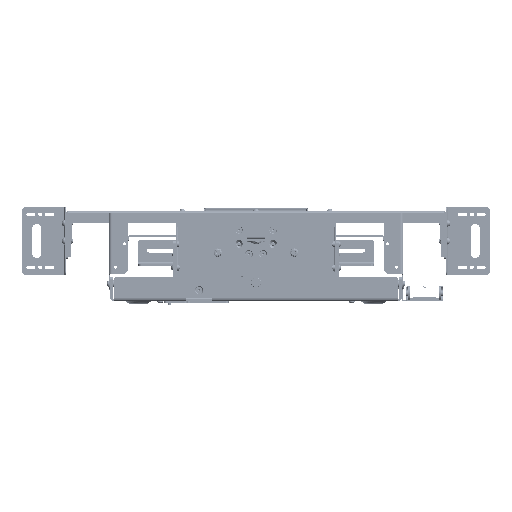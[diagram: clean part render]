
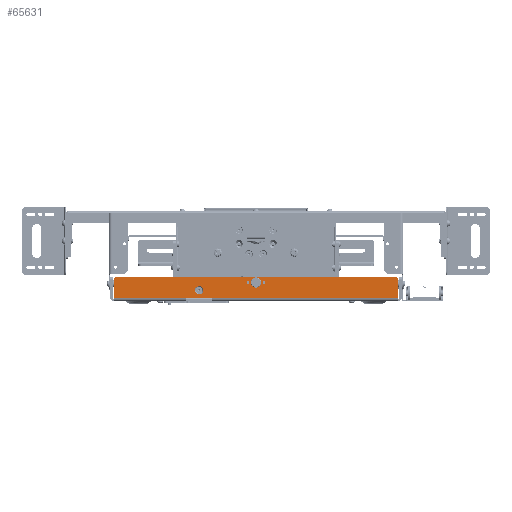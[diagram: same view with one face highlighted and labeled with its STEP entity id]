
A CAD part, front view. The second image highlights one B-rep face of the part: STEP entity #65631.
In plain terms, the highlighted planar face has unit normal (0, -1, 0).
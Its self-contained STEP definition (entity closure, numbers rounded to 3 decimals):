
#600 = DIRECTION ( 'NONE',  ( 0., -1., 0. ) ) ;
#741 = EDGE_CURVE ( 'NONE', #95664, #13946, #26627, .T. ) ;
#1079 = DIRECTION ( 'NONE',  ( 0., 0., 1. ) ) ;
#1618 = CARTESIAN_POINT ( 'NONE',  ( -119.1, -6.2, 6.2 ) ) ;
#4582 = CARTESIAN_POINT ( 'NONE',  ( -96.6, -6.2, 18.7 ) ) ;
#5121 = DIRECTION ( 'NONE',  ( 0., 1., 0. ) ) ;
#5623 = FACE_BOUND ( 'NONE', #27800, .T. ) ;
#7904 = ORIENTED_EDGE ( 'NONE', *, *, #34254, .T. ) ;
#8364 = CARTESIAN_POINT ( 'NONE',  ( 241.3, -6.2, 37. ) ) ;
#8515 = DIRECTION ( 'NONE',  ( 0., 1., 0. ) ) ;
#10911 = VERTEX_POINT ( 'NONE', #78566 ) ;
#11022 = DIRECTION ( 'NONE',  ( 0., 0., -1. ) ) ;
#12051 = FACE_OUTER_BOUND ( 'NONE', #79522, .T. ) ;
#13544 = ORIENTED_EDGE ( 'NONE', *, *, #32694, .T. ) ;
#13946 = VERTEX_POINT ( 'NONE', #41589 ) ;
#15529 = CIRCLE ( 'NONE', #67646, 2.325 ) ;
#16868 = VERTEX_POINT ( 'NONE', #25232 ) ;
#16884 = DIRECTION ( 'NONE',  ( -1., 0., 0. ) ) ;
#17291 = EDGE_CURVE ( 'NONE', #10911, #22701, #46538, .T. ) ;
#17673 = VECTOR ( 'NONE', #82520, 1000. ) ;
#17725 = VERTEX_POINT ( 'NONE', #8364 ) ;
#21248 = DIRECTION ( 'NONE',  ( 0., 0., 1. ) ) ;
#22701 = VERTEX_POINT ( 'NONE', #1618 ) ;
#23065 = AXIS2_PLACEMENT_3D ( 'NONE', #89012, #87546, #21248 ) ;
#23842 = CIRCLE ( 'NONE', #47592, 8.6 ) ;
#23881 = ORIENTED_EDGE ( 'NONE', *, *, #54044, .F. ) ;
#24259 = CARTESIAN_POINT ( 'NONE',  ( -119.1, -6.2, 6.2 ) ) ;
#25232 = CARTESIAN_POINT ( 'NONE',  ( -13.5, -6.2, 34.325 ) ) ;
#25998 = AXIS2_PLACEMENT_3D ( 'NONE', #27859, #5121, #35283 ) ;
#26627 = CIRCLE ( 'NONE', #56716, 5. ) ;
#27800 = EDGE_LOOP ( 'NONE', ( #43632 ) ) ;
#27859 = CARTESIAN_POINT ( 'NONE',  ( -241.3, -6.2, 42. ) ) ;
#28043 = CARTESIAN_POINT ( 'NONE',  ( -96.6, -6.2, 11.7 ) ) ;
#29130 = ORIENTED_EDGE ( 'NONE', *, *, #49113, .F. ) ;
#30306 = EDGE_CURVE ( 'NONE', #13946, #68315, #86206, .T. ) ;
#31414 = CARTESIAN_POINT ( 'NONE',  ( -241.3, -6.2, 6.2 ) ) ;
#31750 = CARTESIAN_POINT ( 'NONE',  ( -236.3, -6.2, 37. ) ) ;
#32694 = EDGE_CURVE ( 'NONE', #95671, #17725, #52889, .T. ) ;
#34254 = EDGE_CURVE ( 'NONE', #78282, #78282, #79094, .T. ) ;
#34725 = DIRECTION ( 'NONE',  ( -1., 0., 0. ) ) ;
#35283 = DIRECTION ( 'NONE',  ( 0., 0., 1. ) ) ;
#35934 = CARTESIAN_POINT ( 'NONE',  ( 0., -6.2, 32. ) ) ;
#36126 = AXIS2_PLACEMENT_3D ( 'NONE', #4582, #72817, #43130 ) ;
#36664 = EDGE_CURVE ( 'NONE', #94117, #94117, #23842, .T. ) ;
#39326 = VECTOR ( 'NONE', #45458, 1000. ) ;
#39528 = EDGE_CURVE ( 'NONE', #22701, #68315, #68429, .T. ) ;
#39542 = AXIS2_PLACEMENT_3D ( 'NONE', #76250, #8515, #1079 ) ;
#39825 = EDGE_CURVE ( 'NONE', #91436, #95664, #96064, .T. ) ;
#39920 = VECTOR ( 'NONE', #34725, 1000. ) ;
#40685 = CARTESIAN_POINT ( 'NONE',  ( 13.5, -6.2, 34.325 ) ) ;
#41589 = CARTESIAN_POINT ( 'NONE',  ( -241.3, -6.2, 37. ) ) ;
#43030 = DIRECTION ( 'NONE',  ( 0., 1., 0. ) ) ;
#43130 = DIRECTION ( 'NONE',  ( 0., 0., -1. ) ) ;
#43632 = ORIENTED_EDGE ( 'NONE', *, *, #36664, .T. ) ;
#43680 = PLANE ( 'NONE',  #25998 ) ;
#44768 = EDGE_CURVE ( 'NONE', #17725, #91436, #65725, .T. ) ;
#45458 = DIRECTION ( 'NONE',  ( 0., 0., 1. ) ) ;
#45645 = CIRCLE ( 'NONE', #36126, 7. ) ;
#46313 = EDGE_CURVE ( 'NONE', #16868, #16868, #15529, .T. ) ;
#46538 = LINE ( 'NONE', #24259, #69761 ) ;
#47592 = AXIS2_PLACEMENT_3D ( 'NONE', #35934, #65617, #50273 ) ;
#49113 = EDGE_CURVE ( 'NONE', #50299, #50299, #45645, .T. ) ;
#50054 = CARTESIAN_POINT ( 'NONE',  ( -241.3, -6.2, 42. ) ) ;
#50273 = DIRECTION ( 'NONE',  ( 0., 0., 1. ) ) ;
#50299 = VERTEX_POINT ( 'NONE', #28043 ) ;
#52889 = LINE ( 'NONE', #83063, #39326 ) ;
#54044 = EDGE_CURVE ( 'NONE', #95671, #10911, #82036, .T. ) ;
#55752 = CARTESIAN_POINT ( 'NONE',  ( 236.3, -6.2, 42. ) ) ;
#56518 = CARTESIAN_POINT ( 'NONE',  ( 0., -6.2, 40.6 ) ) ;
#56716 = AXIS2_PLACEMENT_3D ( 'NONE', #31750, #600, #61934 ) ;
#60831 = VECTOR ( 'NONE', #11022, 1000. ) ;
#61934 = DIRECTION ( 'NONE',  ( 0., 0., 1. ) ) ;
#62385 = ORIENTED_EDGE ( 'NONE', *, *, #17291, .F. ) ;
#62704 = CARTESIAN_POINT ( 'NONE',  ( -236.3, -6.2, 42. ) ) ;
#65462 = FACE_BOUND ( 'NONE', #90918, .T. ) ;
#65617 = DIRECTION ( 'NONE',  ( 0., 1., 0. ) ) ;
#65631 = ADVANCED_FACE ( 'NONE', ( #80314, #96129, #5623, #12051, #65462 ), #43680, .F. ) ;
#65725 = CIRCLE ( 'NONE', #23065, 5. ) ;
#67646 = AXIS2_PLACEMENT_3D ( 'NONE', #88534, #43030, #73709 ) ;
#68315 = VERTEX_POINT ( 'NONE', #31414 ) ;
#68429 = LINE ( 'NONE', #69407, #82523 ) ;
#69407 = CARTESIAN_POINT ( 'NONE',  ( -241.3, -6.2, 6.2 ) ) ;
#69761 = VECTOR ( 'NONE', #16884, 1000. ) ;
#70889 = ORIENTED_EDGE ( 'NONE', *, *, #30306, .T. ) ;
#71350 = CARTESIAN_POINT ( 'NONE',  ( -241.3, -6.2, 42. ) ) ;
#72817 = DIRECTION ( 'NONE',  ( 0., -1., 0. ) ) ;
#73709 = DIRECTION ( 'NONE',  ( 0., 0., 1. ) ) ;
#73928 = ORIENTED_EDGE ( 'NONE', *, *, #44768, .T. ) ;
#76250 = CARTESIAN_POINT ( 'NONE',  ( 13.5, -6.2, 32. ) ) ;
#77524 = CARTESIAN_POINT ( 'NONE',  ( 241.3, -6.2, 6.2 ) ) ;
#78282 = VERTEX_POINT ( 'NONE', #40685 ) ;
#78566 = CARTESIAN_POINT ( 'NONE',  ( -74.1, -6.2, 6.2 ) ) ;
#79094 = CIRCLE ( 'NONE', #39542, 2.325 ) ;
#79522 = EDGE_LOOP ( 'NONE', ( #13544, #73928, #91784, #89105, #70889, #89853, #62385, #23881 ) ) ;
#80314 = FACE_BOUND ( 'NONE', #91520, .T. ) ;
#81934 = ORIENTED_EDGE ( 'NONE', *, *, #46313, .T. ) ;
#82036 = LINE ( 'NONE', #87991, #17673 ) ;
#82520 = DIRECTION ( 'NONE',  ( -1., 0., 0. ) ) ;
#82523 = VECTOR ( 'NONE', #90708, 1000. ) ;
#83063 = CARTESIAN_POINT ( 'NONE',  ( 241.3, -6.2, 42. ) ) ;
#86206 = LINE ( 'NONE', #71350, #60831 ) ;
#87546 = DIRECTION ( 'NONE',  ( 0., -1., 0. ) ) ;
#87991 = CARTESIAN_POINT ( 'NONE',  ( -241.3, -6.2, 6.2 ) ) ;
#88534 = CARTESIAN_POINT ( 'NONE',  ( -13.5, -6.2, 32. ) ) ;
#89012 = CARTESIAN_POINT ( 'NONE',  ( 236.3, -6.2, 37. ) ) ;
#89105 = ORIENTED_EDGE ( 'NONE', *, *, #741, .T. ) ;
#89853 = ORIENTED_EDGE ( 'NONE', *, *, #39528, .F. ) ;
#90708 = DIRECTION ( 'NONE',  ( -1., 0., 0. ) ) ;
#90918 = EDGE_LOOP ( 'NONE', ( #29130 ) ) ;
#91436 = VERTEX_POINT ( 'NONE', #55752 ) ;
#91520 = EDGE_LOOP ( 'NONE', ( #81934 ) ) ;
#91784 = ORIENTED_EDGE ( 'NONE', *, *, #39825, .T. ) ;
#94117 = VERTEX_POINT ( 'NONE', #56518 ) ;
#95211 = EDGE_LOOP ( 'NONE', ( #7904 ) ) ;
#95664 = VERTEX_POINT ( 'NONE', #62704 ) ;
#95671 = VERTEX_POINT ( 'NONE', #77524 ) ;
#96064 = LINE ( 'NONE', #50054, #39920 ) ;
#96129 = FACE_BOUND ( 'NONE', #95211, .T. ) ;
